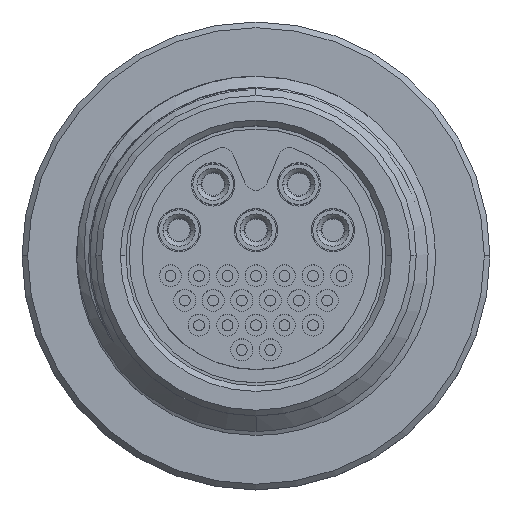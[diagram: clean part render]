
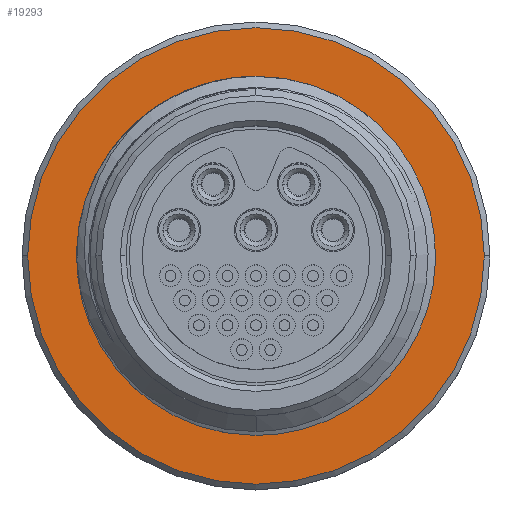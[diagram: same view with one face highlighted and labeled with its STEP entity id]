
A CAD part, top view. The second image highlights one B-rep face of the part: STEP entity #19293.
In plain terms, the highlighted planar face has unit normal (0, 0, 1).
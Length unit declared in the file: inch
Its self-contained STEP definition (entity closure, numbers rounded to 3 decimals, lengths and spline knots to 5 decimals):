
#315 = DIRECTION ( 'NONE',  ( 0., 0., 1. ) ) ;
#1500 = CIRCLE ( 'NONE', #3294, 0.40037 ) ;
#2173 = CARTESIAN_POINT ( 'NONE',  ( 0., 0., 0.1 ) ) ;
#2270 = CARTESIAN_POINT ( 'NONE',  ( 0., 0., 0.1 ) ) ;
#2495 = AXIS2_PLACEMENT_3D ( 'NONE', #11191, #14500, #16442 ) ;
#2597 = DIRECTION ( 'NONE',  ( -1., 0., 0. ) ) ;
#3294 = AXIS2_PLACEMENT_3D ( 'NONE', #15160, #15079, #2597 ) ;
#4205 = ORIENTED_EDGE ( 'NONE', *, *, #9741, .F. ) ;
#5752 = CARTESIAN_POINT ( 'NONE',  ( -0.281, 0., 0.1 ) ) ;
#6243 = AXIS2_PLACEMENT_3D ( 'NONE', #14481, #315, #21999 ) ;
#6465 = CIRCLE ( 'NONE', #16411, 0.40037 ) ;
#7394 = FACE_BOUND ( 'NONE', #23476, .T. ) ;
#7916 = EDGE_LOOP ( 'NONE', ( #20638, #19346 ) ) ;
#7980 = FACE_OUTER_BOUND ( 'NONE', #7916, .T. ) ;
#8782 = AXIS2_PLACEMENT_3D ( 'NONE', #2270, #14851, #14922 ) ;
#9367 = CIRCLE ( 'NONE', #2495, 0.281 ) ;
#9741 = EDGE_CURVE ( 'NONE', #15174, #14365, #19872, .T. ) ;
#11191 = CARTESIAN_POINT ( 'NONE',  ( 0., 0., 0.1 ) ) ;
#12520 = EDGE_CURVE ( 'NONE', #14365, #15174, #9367, .T. ) ;
#13115 = PLANE ( 'NONE',  #8782 ) ;
#13291 = VERTEX_POINT ( 'NONE', #15553 ) ;
#14228 = EDGE_CURVE ( 'NONE', #13291, #19115, #6465, .T. ) ;
#14365 = VERTEX_POINT ( 'NONE', #5752 ) ;
#14481 = CARTESIAN_POINT ( 'NONE',  ( 0., 0., 0.1 ) ) ;
#14500 = DIRECTION ( 'NONE',  ( 0., 0., 1. ) ) ;
#14851 = DIRECTION ( 'NONE',  ( 0., 0., 1. ) ) ;
#14922 = DIRECTION ( 'NONE',  ( -1., 0., 0. ) ) ;
#15079 = DIRECTION ( 'NONE',  ( 0., 0., 1. ) ) ;
#15160 = CARTESIAN_POINT ( 'NONE',  ( 0., 0., 0.1 ) ) ;
#15174 = VERTEX_POINT ( 'NONE', #19230 ) ;
#15553 = CARTESIAN_POINT ( 'NONE',  ( -0.40037, 0., 0.1 ) ) ;
#16411 = AXIS2_PLACEMENT_3D ( 'NONE', #2173, #22278, #18944 ) ;
#16442 = DIRECTION ( 'NONE',  ( -1., 0., 0. ) ) ;
#18283 = EDGE_CURVE ( 'NONE', #19115, #13291, #1500, .T. ) ;
#18944 = DIRECTION ( 'NONE',  ( -1., 0., 0. ) ) ;
#19115 = VERTEX_POINT ( 'NONE', #19620 ) ;
#19230 = CARTESIAN_POINT ( 'NONE',  ( 0.281, 0., 0.1 ) ) ;
#19293 = ADVANCED_FACE ( 'NONE', ( #7980, #7394 ), #13115, .T. ) ;
#19346 = ORIENTED_EDGE ( 'NONE', *, *, #14228, .T. ) ;
#19620 = CARTESIAN_POINT ( 'NONE',  ( 0.40037, 0., 0.1 ) ) ;
#19872 = CIRCLE ( 'NONE', #6243, 0.281 ) ;
#20638 = ORIENTED_EDGE ( 'NONE', *, *, #18283, .T. ) ;
#20895 = ORIENTED_EDGE ( 'NONE', *, *, #12520, .F. ) ;
#21999 = DIRECTION ( 'NONE',  ( -1., 0., 0. ) ) ;
#22278 = DIRECTION ( 'NONE',  ( 0., 0., 1. ) ) ;
#23476 = EDGE_LOOP ( 'NONE', ( #20895, #4205 ) ) ;
